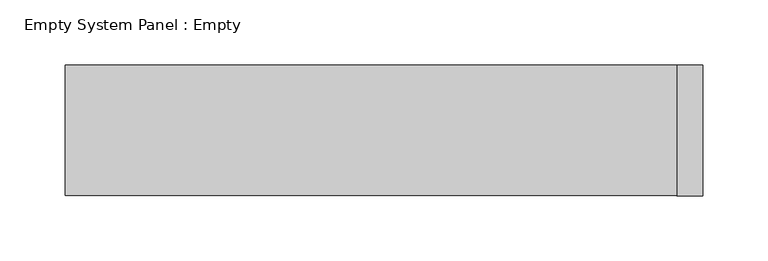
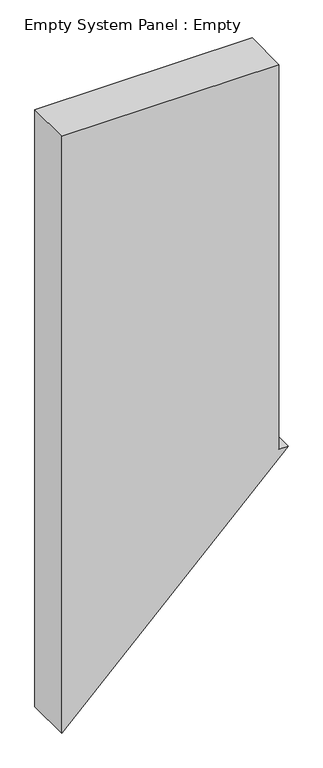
"""IFC4 building model written with IfcOpenShell, lengths in millimetres: plate geometry, Empty System Panel : Empty."""

from ifc_helpers import new_model, si_unit, frame, origin, place, context, project, spatial, polyline, outline, extrude, source, transform, mapped, element, save


def empty_system_panel_empty_8ce3b1d8(model_context):
    return source(origin(), model_context, "Body", "SweptSolid", [
        extrude(outline(polyline([(0.0, -244.1589868), (483.6662514, 244.1589868), (483.6662514, 224.1589868), (1360.618157, 224.1589868), (1360.618157, -244.1589868), (0.0, -244.1589868)])), frame((0.0, -50.0, 0.0), z_axis=(0.0, 1.0, 0.0), x_axis=(0.0, 0.0, 1.0)), (0.0, 0.0, 1.0), 100.0),
    ])


if __name__ == "__main__":
    model = new_model("IFC4")
    model_context = context("Model", 3, world=origin())
    ifc_project = project(units=[si_unit("LENGTHUNIT", "METRE", prefix="MILLI")], contexts=[model_context])
    site = spatial("IfcSite", under=ifc_project)
    building = spatial("IfcBuilding", under=site)
    placement = place(None, origin())
    empty_system_panel_empty_shape = empty_system_panel_empty_8ce3b1d8(model_context)
    element("IfcPlate", 1, ObjectType="Empty System Panel : Empty", at=placement, inside=building, context=model_context, shape_type="MappedRepresentation", body=[
        mapped(empty_system_panel_empty_shape, transform((0.0, 0.0, 0.0), x_axis=(1.0, 0.0, 0.0), y_axis=(0.0, 1.0, 0.0), z_axis=(0.0, 0.0, 1.0))),
    ])
    save(model, "model.ifc")
